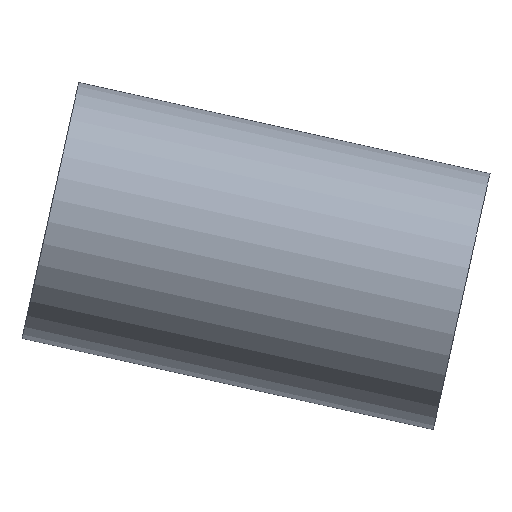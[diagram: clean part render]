
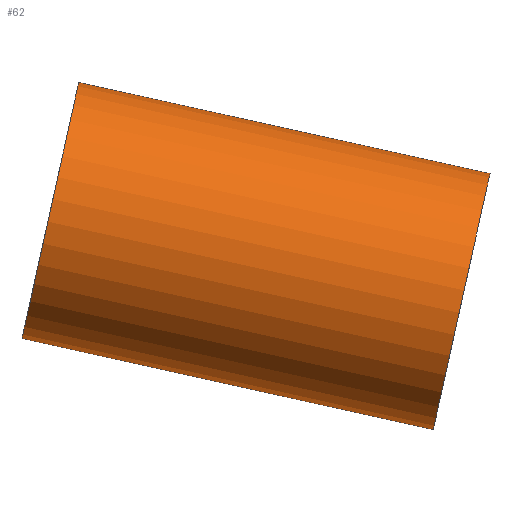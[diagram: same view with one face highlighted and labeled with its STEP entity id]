
A CAD part, left-side view. The second image highlights one B-rep face of the part: STEP entity #62.
In plain terms, the highlighted cylindrical face has radius 5.5 mm (diameter 11 mm), a full revolution.
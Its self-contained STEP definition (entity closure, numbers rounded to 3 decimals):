
#15=LINE('',#115,#17);
#17=VECTOR('',#97,5.5);
#19=CYLINDRICAL_SURFACE('',#82,5.5);
#24=FACE_OUTER_BOUND('',#29,.T.);
#29=EDGE_LOOP('',(#49,#50,#51,#52));
#33=CIRCLE('',#80,5.5);
#35=CIRCLE('',#83,5.5);
#37=VERTEX_POINT('',#109);
#39=VERTEX_POINT('',#114);
#41=EDGE_CURVE('',#37,#37,#33,.F.);
#43=EDGE_CURVE('',#37,#39,#15,.T.);
#44=EDGE_CURVE('',#39,#39,#35,.F.);
#49=ORIENTED_EDGE('',*,*,#41,.T.);
#50=ORIENTED_EDGE('',*,*,#43,.T.);
#51=ORIENTED_EDGE('',*,*,#44,.T.);
#52=ORIENTED_EDGE('',*,*,#43,.F.);
#62=ADVANCED_FACE('',(#24),#19,.T.);
#80=AXIS2_PLACEMENT_3D('',#110,#91,#92);
#82=AXIS2_PLACEMENT_3D('',#113,#95,#96);
#83=AXIS2_PLACEMENT_3D('',#116,#98,#99);
#91=DIRECTION('center_axis',(0.,0.976,0.216));
#92=DIRECTION('ref_axis',(-0.707,-0.153,0.69));
#95=DIRECTION('center_axis',(0.,0.976,0.216));
#96=DIRECTION('ref_axis',(-0.707,-0.153,0.69));
#97=DIRECTION('',(0.,-0.976,-0.216));
#98=DIRECTION('center_axis',(0.,-0.976,-0.216));
#99=DIRECTION('ref_axis',(-0.707,-0.153,0.69));
#109=CARTESIAN_POINT('',(3.889,21.144,49.854));
#110=CARTESIAN_POINT('Origin',(0.,20.303,53.651));
#113=CARTESIAN_POINT('Origin',(0.,33.094,56.487));
#114=CARTESIAN_POINT('',(3.889,3.961,46.044));
#115=CARTESIAN_POINT('',(3.889,33.936,52.69));
#116=CARTESIAN_POINT('Origin',(0.,3.12,49.841));
